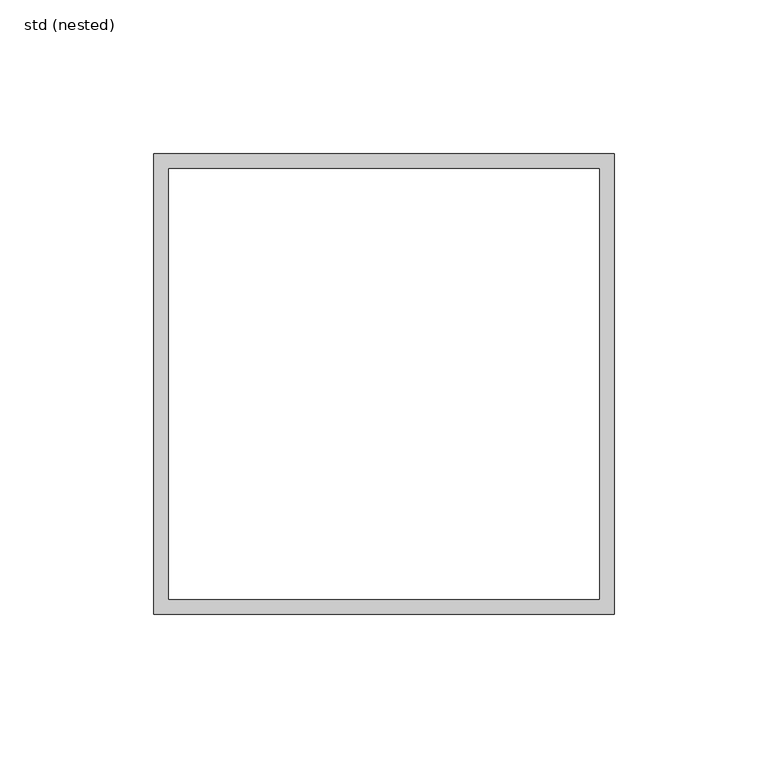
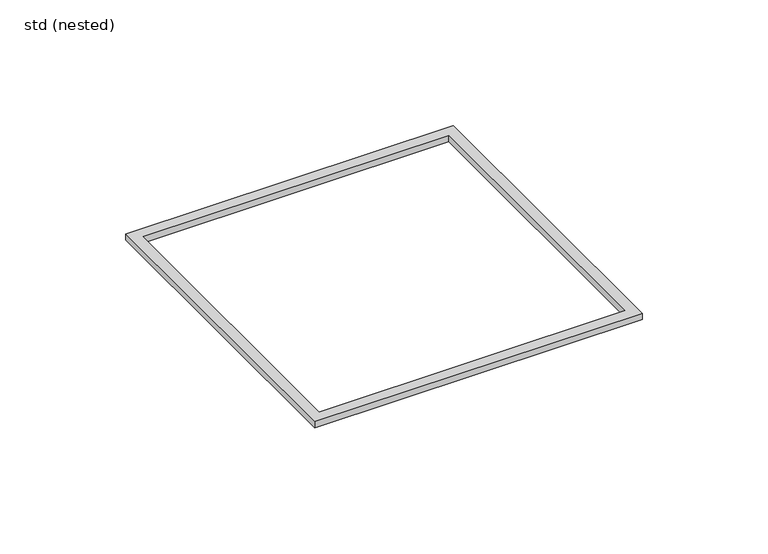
"""IFC4 building model written with IfcOpenShell, lengths in millimetres: sanitary terminal geometry, ZZZ_do_not_use_PF_GEN_UN_top frame_ACO : std (nested)."""

from ifc_helpers import new_model, si_unit, frame, origin, place, context, project, spatial, polyline, outline, extrude, source, transform, mapped, element, save


def std_nested_c6cb2ad9(model_context):
    return source(origin(), model_context, "Body", "SweptSolid", [
        extrude(outline(polyline([(75.0, 75.0), (75.0, -75.0), (-75.0, -75.0), (-75.0, 75.0), (75.0, 75.0)]), holes=[polyline([(70.0, 70.0), (-70.0, 70.0), (-70.0, -70.0), (70.0, -70.0), (70.0, 70.0)])]), frame((0.0, 0.0, -3.0), z_axis=(0.0, 0.0, 1.0), x_axis=(1.0, 0.0, 0.0)), (0.0, 0.0, 1.0), 3.0),
    ])


if __name__ == "__main__":
    model = new_model("IFC4")
    model_context = context("Model", 3, world=origin())
    ifc_project = project(units=[si_unit("LENGTHUNIT", "METRE", prefix="MILLI")], contexts=[model_context])
    site = spatial("IfcSite", under=ifc_project)
    building = spatial("IfcBuilding", under=site)
    placement = place(None, origin())
    std_nested_shape = std_nested_c6cb2ad9(model_context)
    element("IfcSanitaryTerminal", 1, ObjectType="ZZZ_do_not_use_PF_GEN_UN_top frame_ACO : std (nested)", at=placement, inside=building, context=model_context, shape_type="MappedRepresentation", body=[
        mapped(std_nested_shape, transform((0.0, 0.0, 0.0), x_axis=(1.0, 0.0, 0.0), y_axis=(0.0, 1.0, 0.0), z_axis=(0.0, 0.0, 1.0))),
    ])
    save(model, "model.ifc")
